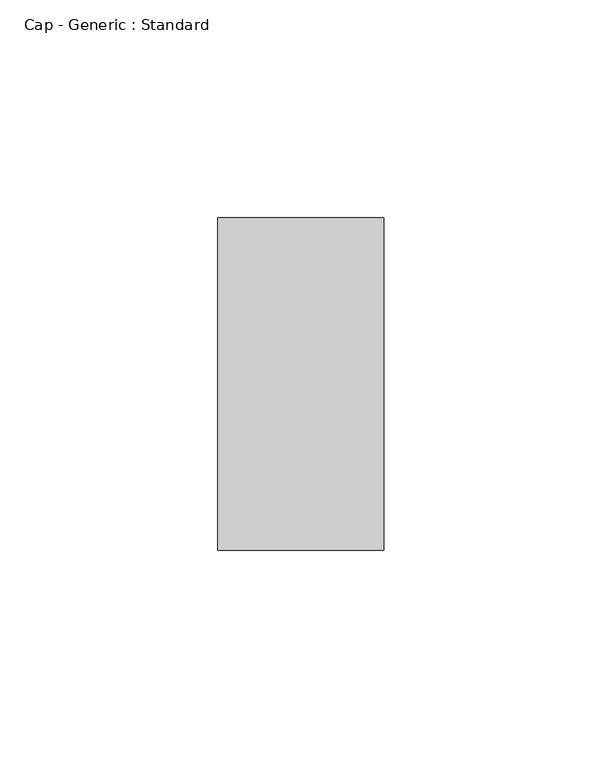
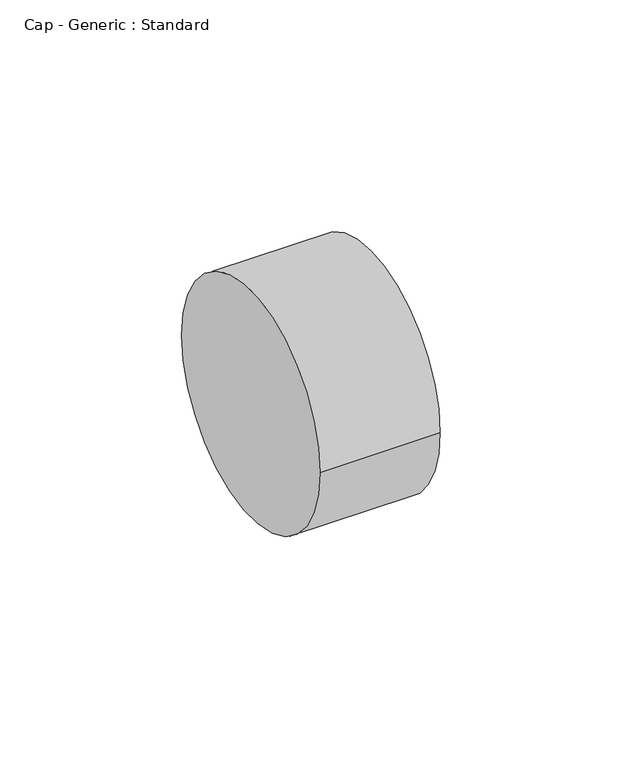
"""IFC4 building model written with IfcOpenShell, lengths in millimetres: pipe fitting geometry, Cap - Generic : Standard."""

from ifc_helpers import new_model, si_unit, point, frame, origin, origin_2d, place, context, project, spatial, circle_curve, trimmed, segment, composite_curve, outline, extrude, source, transform, mapped, element, save


def cap_generic_standard_0bed21c5(model_context):
    return source(origin(), model_context, "Body", "SweptSolid", [
        extrude(outline(composite_curve([segment(trimmed(circle_curve(origin_2d(), 38.1), [point((-38.1, 0.0))], [point((38.1, 0.0))], False, "CARTESIAN"), True, "CONTINUOUS"), segment(trimmed(circle_curve(origin_2d(), 38.1), [point((38.1, 0.0))], [point((-38.1, 0.0))], False, "CARTESIAN"), True, "CONTINUOUS")], self_intersect=False)), frame((0.0, 0.0, 0.0), z_axis=(1.0, 0.0, 0.0), x_axis=(0.0, 1.0, 0.0)), (0.0, 0.0, 1.0), 38.1),
    ])


if __name__ == "__main__":
    model = new_model("IFC4")
    model_context = context("Model", 3, world=origin())
    ifc_project = project(units=[si_unit("LENGTHUNIT", "METRE", prefix="MILLI")], contexts=[model_context])
    site = spatial("IfcSite", under=ifc_project)
    building = spatial("IfcBuilding", under=site)
    placement = place(None, origin())
    cap_generic_standard_shape = cap_generic_standard_0bed21c5(model_context)
    element("IfcPipeFitting", 1, ObjectType="Cap - Generic : Standard", at=placement, inside=building, context=model_context, shape_type="MappedRepresentation", body=[
        mapped(cap_generic_standard_shape, transform((0.0, 0.0, 0.0), x_axis=(1.0, 0.0, 0.0), y_axis=(0.0, 1.0, 0.0), z_axis=(0.0, 0.0, 1.0))),
    ])
    save(model, "model.ifc")
